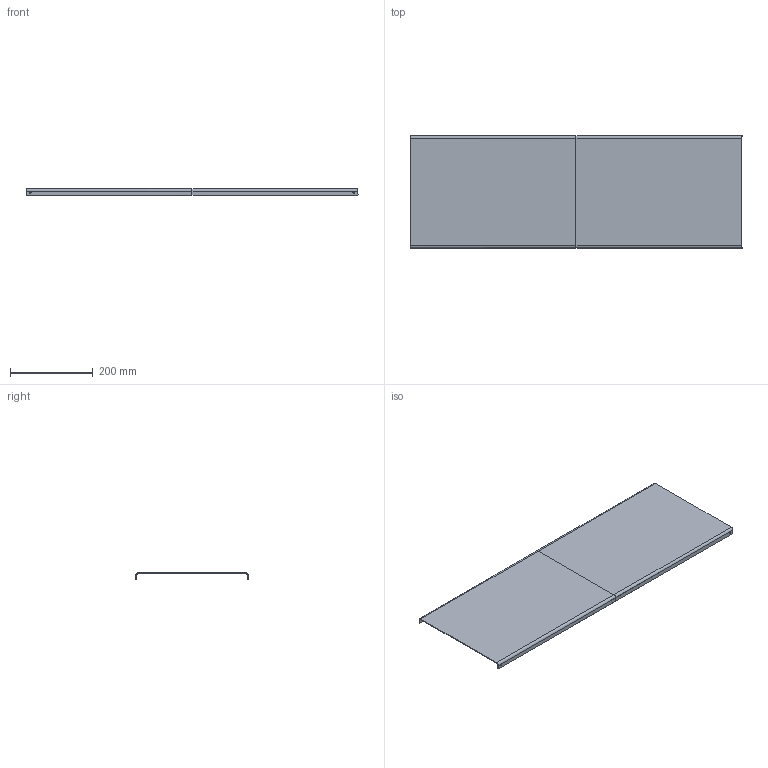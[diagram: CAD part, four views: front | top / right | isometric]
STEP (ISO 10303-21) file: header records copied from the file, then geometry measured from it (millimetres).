
FILE_DESCRIPTION(/* description */ (''),/* implementation_level */ '2;1');
FILE_NAME(/* name */ 'FRAMA_Shelf_Library_Single_Shelf_27x80_3D_File',/* time_stamp */ '2023-05-26T10:40:09+02:00',/* author */ (''),/* organization */ (''),/* preprocessor_version */ 'ST-DEVELOPER v16.5',/* originating_system */ 'Rhino 7.29',/* authorisation */ '');
FILE_SCHEMA (('CONFIG_CONTROL_DESIGN'));
Length unit declared in the file: millimetre
Products named in the file (1): Document
Bounding box: 800 x 270 x 16 mm (x, y, z)
Surface area: 474787.3 mm2 (no closed solid volume)
Topology: 0 solids, 1 shells, 49 faces, 116 edges, 68 vertices
Faces by surface type: plane 25, cylinder 16, bspline 8
Entity records: 1467 total; most frequent: CARTESIAN_POINT 597, ORIENTED_EDGE 228, EDGE_CURVE 116, VERTEX_POINT 68, B_SPLINE_CURVE_WITH_KNOTS 64, EDGE_LOOP 61, ADVANCED_FACE 49, FACE_OUTER_BOUND 49
